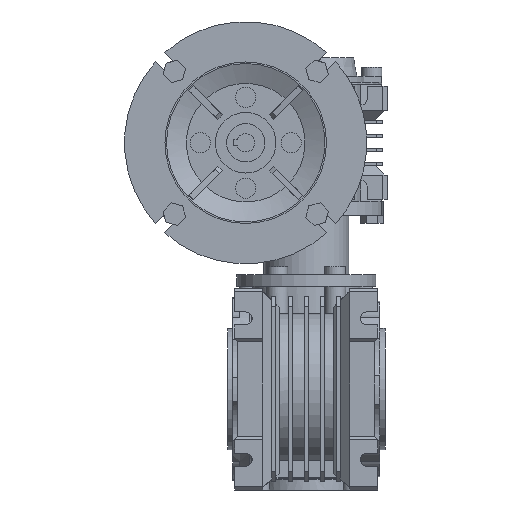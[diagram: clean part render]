
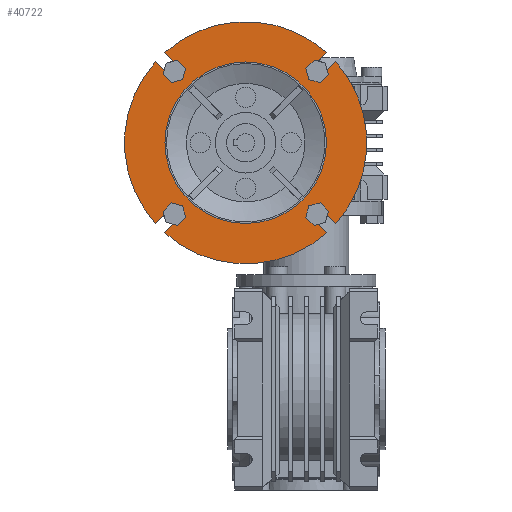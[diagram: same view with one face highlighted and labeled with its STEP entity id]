
A CAD part, front view. The second image highlights one B-rep face of the part: STEP entity #40722.
In plain terms, the highlighted planar face has unit normal (0, -1, 0) as drawn and (1, 0, 0) by its records, which use the part's own axes.
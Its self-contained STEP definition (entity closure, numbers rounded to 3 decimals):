
#1566=CIRCLE('',#43363,60.);
#1569=CIRCLE('',#43367,60.);
#1571=CIRCLE('',#43370,60.);
#1584=CIRCLE('',#43396,60.);
#1585=CIRCLE('',#43398,40.);
#1586=CIRCLE('',#43399,3.25);
#1587=CIRCLE('',#43400,3.25);
#1588=CIRCLE('',#43401,3.25);
#1589=CIRCLE('',#43402,3.25);
#9475=ORIENTED_EDGE('',*,*,#14023,.F.);
#9476=ORIENTED_EDGE('',*,*,#14024,.F.);
#9477=ORIENTED_EDGE('',*,*,#14025,.T.);
#9478=ORIENTED_EDGE('',*,*,#13928,.T.);
#9479=ORIENTED_EDGE('',*,*,#14026,.T.);
#9480=ORIENTED_EDGE('',*,*,#14027,.F.);
#9481=ORIENTED_EDGE('',*,*,#14028,.T.);
#9482=ORIENTED_EDGE('',*,*,#13938,.T.);
#9483=ORIENTED_EDGE('',*,*,#14029,.T.);
#9484=ORIENTED_EDGE('',*,*,#14030,.F.);
#9485=ORIENTED_EDGE('',*,*,#14031,.T.);
#9486=ORIENTED_EDGE('',*,*,#13934,.T.);
#9487=ORIENTED_EDGE('',*,*,#14032,.T.);
#9488=ORIENTED_EDGE('',*,*,#14033,.F.);
#9489=ORIENTED_EDGE('',*,*,#14034,.T.);
#9490=ORIENTED_EDGE('',*,*,#14021,.T.);
#9491=ORIENTED_EDGE('',*,*,#14035,.T.);
#13928=EDGE_CURVE('',#16858,#16859,#1566,.T.);
#13934=EDGE_CURVE('',#16865,#16864,#1569,.T.);
#13938=EDGE_CURVE('',#16869,#16868,#1571,.T.);
#14021=EDGE_CURVE('',#16942,#16941,#1584,.T.);
#14023=EDGE_CURVE('',#16943,#16943,#1585,.T.);
#14024=EDGE_CURVE('',#16944,#16945,#1586,.T.);
#14025=EDGE_CURVE('',#16944,#16858,#19964,.T.);
#14026=EDGE_CURVE('',#16859,#16946,#19965,.T.);
#14027=EDGE_CURVE('',#16947,#16946,#1587,.T.);
#14028=EDGE_CURVE('',#16947,#16869,#19966,.T.);
#14029=EDGE_CURVE('',#16868,#16948,#19967,.T.);
#14030=EDGE_CURVE('',#16949,#16948,#1588,.T.);
#14031=EDGE_CURVE('',#16949,#16865,#19968,.T.);
#14032=EDGE_CURVE('',#16864,#16950,#19969,.T.);
#14033=EDGE_CURVE('',#16951,#16950,#1589,.T.);
#14034=EDGE_CURVE('',#16951,#16942,#19970,.T.);
#14035=EDGE_CURVE('',#16941,#16945,#19971,.T.);
#16858=VERTEX_POINT('',#60368);
#16859=VERTEX_POINT('',#60369);
#16864=VERTEX_POINT('',#60380);
#16865=VERTEX_POINT('',#60382);
#16868=VERTEX_POINT('',#60389);
#16869=VERTEX_POINT('',#60391);
#16941=VERTEX_POINT('',#60588);
#16942=VERTEX_POINT('',#60590);
#16943=VERTEX_POINT('',#60594);
#16944=VERTEX_POINT('',#60596);
#16945=VERTEX_POINT('',#60597);
#16946=VERTEX_POINT('',#60600);
#16947=VERTEX_POINT('',#60602);
#16948=VERTEX_POINT('',#60605);
#16949=VERTEX_POINT('',#60607);
#16950=VERTEX_POINT('',#60610);
#16951=VERTEX_POINT('',#60612);
#19964=LINE('',#60598,#23028);
#19965=LINE('',#60599,#23029);
#19966=LINE('',#60603,#23030);
#19967=LINE('',#60604,#23031);
#19968=LINE('',#60608,#23032);
#19969=LINE('',#60609,#23033);
#19970=LINE('',#60613,#23034);
#19971=LINE('',#60614,#23035);
#23028=VECTOR('',#51294,1000.);
#23029=VECTOR('',#51295,1000.);
#23030=VECTOR('',#51298,1000.);
#23031=VECTOR('',#51299,1000.);
#23032=VECTOR('',#51302,1000.);
#23033=VECTOR('',#51303,1000.);
#23034=VECTOR('',#51306,1000.);
#23035=VECTOR('',#51307,1000.);
#24920=EDGE_LOOP('',(#9475));
#24921=EDGE_LOOP('',(#9476,#9477,#9478,#9479,#9480,#9481,#9482,#9483,#9484,
#9485,#9486,#9487,#9488,#9489,#9490,#9491));
#26784=FACE_BOUND('',#24920,.T.);
#26785=FACE_BOUND('',#24921,.T.);
#28036=PLANE('',#43397);
#40722=ADVANCED_FACE('',(#26784,#26785),#28036,.F.);
#43363=AXIS2_PLACEMENT_3D('',#60367,#51162,#51163);
#43367=AXIS2_PLACEMENT_3D('',#60381,#51173,#51174);
#43370=AXIS2_PLACEMENT_3D('',#60390,#51181,#51182);
#43396=AXIS2_PLACEMENT_3D('',#60589,#51285,#51286);
#43397=AXIS2_PLACEMENT_3D('',#60592,#51288,#51289);
#43398=AXIS2_PLACEMENT_3D('',#60593,#51290,#51291);
#43399=AXIS2_PLACEMENT_3D('',#60595,#51292,#51293);
#43400=AXIS2_PLACEMENT_3D('',#60601,#51296,#51297);
#43401=AXIS2_PLACEMENT_3D('',#60606,#51300,#51301);
#43402=AXIS2_PLACEMENT_3D('',#60611,#51304,#51305);
#51162=DIRECTION('',(1.,0.,0.));
#51163=DIRECTION('',(0.,0.,-1.));
#51173=DIRECTION('',(1.,0.,0.));
#51174=DIRECTION('',(0.,0.,-1.));
#51181=DIRECTION('',(1.,0.,0.));
#51182=DIRECTION('',(0.,0.,-1.));
#51285=DIRECTION('',(1.,0.,0.));
#51286=DIRECTION('',(0.,0.,-1.));
#51288=DIRECTION('',(-1.,0.,0.));
#51289=DIRECTION('',(0.,0.,1.));
#51290=DIRECTION('',(1.,0.,0.));
#51291=DIRECTION('',(0.,0.,-1.));
#51292=DIRECTION('',(1.,0.,0.));
#51293=DIRECTION('',(0.,0.,-1.));
#51294=DIRECTION('',(0.,0.707,0.707));
#51295=DIRECTION('',(0.,0.707,-0.707));
#51296=DIRECTION('',(1.,0.,0.));
#51297=DIRECTION('',(0.,0.,-1.));
#51298=DIRECTION('',(0.,-0.707,0.707));
#51299=DIRECTION('',(0.,0.707,0.707));
#51300=DIRECTION('',(1.,0.,0.));
#51301=DIRECTION('',(0.,0.,-1.));
#51302=DIRECTION('',(0.,-0.707,-0.707));
#51303=DIRECTION('',(0.,-0.707,0.707));
#51304=DIRECTION('',(1.,0.,0.));
#51305=DIRECTION('',(0.,0.,-1.));
#51306=DIRECTION('',(0.,0.707,-0.707));
#51307=DIRECTION('',(0.,-0.707,-0.707));
#60367=CARTESIAN_POINT('',(20.,0.,0.));
#60368=CARTESIAN_POINT('',(20.,40.066,44.662));
#60369=CARTESIAN_POINT('',(20.,-40.066,44.662));
#60380=CARTESIAN_POINT('',(20.,40.066,-44.662));
#60381=CARTESIAN_POINT('',(20.,0.,0.));
#60382=CARTESIAN_POINT('',(20.,-40.066,-44.662));
#60389=CARTESIAN_POINT('',(20.,-44.662,-40.066));
#60390=CARTESIAN_POINT('',(20.,0.,0.));
#60391=CARTESIAN_POINT('',(20.,-44.662,40.066));
#60588=CARTESIAN_POINT('',(20.,44.662,40.066));
#60589=CARTESIAN_POINT('',(20.,0.,0.));
#60590=CARTESIAN_POINT('',(20.,44.662,-40.066));
#60592=CARTESIAN_POINT('',(20.,60.,0.));
#60593=CARTESIAN_POINT('',(20.,0.,0.));
#60594=CARTESIAN_POINT('',(20.,0.,-40.));
#60595=CARTESIAN_POINT('',(20.,35.355,35.355));
#60596=CARTESIAN_POINT('',(20.,33.057,37.653));
#60597=CARTESIAN_POINT('',(20.,37.653,33.057));
#60598=CARTESIAN_POINT('',(20.,33.057,37.653));
#60599=CARTESIAN_POINT('',(20.,-40.066,44.662));
#60600=CARTESIAN_POINT('',(20.,-33.057,37.653));
#60601=CARTESIAN_POINT('',(20.,-35.355,35.355));
#60602=CARTESIAN_POINT('',(20.,-37.653,33.057));
#60603=CARTESIAN_POINT('',(20.,-37.653,33.057));
#60604=CARTESIAN_POINT('',(20.,-44.662,-40.066));
#60605=CARTESIAN_POINT('',(20.,-37.653,-33.057));
#60606=CARTESIAN_POINT('',(20.,-35.355,-35.355));
#60607=CARTESIAN_POINT('',(20.,-33.057,-37.653));
#60608=CARTESIAN_POINT('',(20.,-33.057,-37.653));
#60609=CARTESIAN_POINT('',(20.,40.066,-44.662));
#60610=CARTESIAN_POINT('',(20.,33.057,-37.653));
#60611=CARTESIAN_POINT('',(20.,35.355,-35.355));
#60612=CARTESIAN_POINT('',(20.,37.653,-33.057));
#60613=CARTESIAN_POINT('',(20.,37.653,-33.057));
#60614=CARTESIAN_POINT('',(20.,44.662,40.066));
